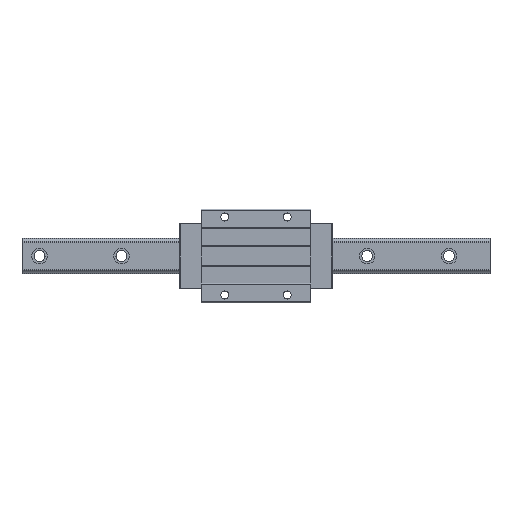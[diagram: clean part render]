
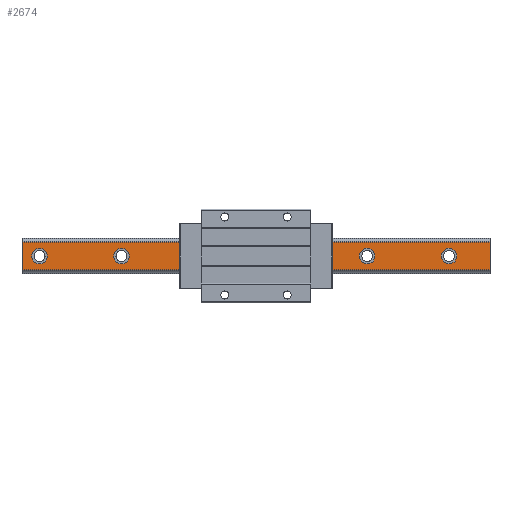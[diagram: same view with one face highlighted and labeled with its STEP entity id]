
A CAD part, top view. The second image highlights one B-rep face of the part: STEP entity #2674.
In plain terms, the highlighted planar face has unit normal (0, 0, 1).
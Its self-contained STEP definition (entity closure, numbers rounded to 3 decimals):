
#2 = EDGE_CURVE ( 'NONE', #453, #6997, #2956, .T. ) ;
#46 = CARTESIAN_POINT ( 'NONE',  ( -182.5, 0., 32. ) ) ;
#96 = DIRECTION ( 'NONE',  ( 0., -1., 0. ) ) ;
#99 = AXIS2_PLACEMENT_3D ( 'NONE', #2702, #5079, #7320 ) ;
#159 = VECTOR ( 'NONE', #955, 1000. ) ;
#166 = VERTEX_POINT ( 'NONE', #5169 ) ;
#240 = ORIENTED_EDGE ( 'NONE', *, *, #995, .F. ) ;
#313 = LINE ( 'NONE', #1438, #3094 ) ;
#322 = DIRECTION ( 'NONE',  ( -1., 0., 0. ) ) ;
#453 = VERTEX_POINT ( 'NONE', #46 ) ;
#460 = VERTEX_POINT ( 'NONE', #685 ) ;
#522 = VERTEX_POINT ( 'NONE', #4026 ) ;
#553 = DIRECTION ( 'NONE',  ( 0., 1., 0. ) ) ;
#618 = DIRECTION ( 'NONE',  ( 1., 0., 0. ) ) ;
#649 = FACE_BOUND ( 'NONE', #3521, .T. ) ;
#683 = DIRECTION ( 'NONE',  ( 0., 0., -1. ) ) ;
#685 = CARTESIAN_POINT ( 'NONE',  ( 257.5, 0., 32. ) ) ;
#688 = DIRECTION ( 'NONE',  ( 1., 0., 0. ) ) ;
#706 = EDGE_LOOP ( 'NONE', ( #4508, #240 ) ) ;
#714 = VERTEX_POINT ( 'NONE', #3998 ) ;
#729 = CIRCLE ( 'NONE', #1331, 10. ) ;
#761 = DIRECTION ( 'NONE',  ( 0., 0., 1. ) ) ;
#851 = CARTESIAN_POINT ( 'NONE',  ( -162.5, 0., 32. ) ) ;
#917 = CARTESIAN_POINT ( 'NONE',  ( 37.5, 0., 32. ) ) ;
#938 = EDGE_CURVE ( 'NONE', #3928, #714, #313, .T. ) ;
#955 = DIRECTION ( 'NONE',  ( 0., -1., 0. ) ) ;
#980 = ORIENTED_EDGE ( 'NONE', *, *, #1944, .F. ) ;
#995 = EDGE_CURVE ( 'NONE', #166, #1983, #5631, .T. ) ;
#1119 = FACE_OUTER_BOUND ( 'NONE', #1624, .T. ) ;
#1153 = FACE_BOUND ( 'NONE', #706, .T. ) ;
#1192 = DIRECTION ( 'NONE',  ( 0., 0., 1. ) ) ;
#1222 = AXIS2_PLACEMENT_3D ( 'NONE', #6339, #5824, #688 ) ;
#1244 = LINE ( 'NONE', #5810, #3497 ) ;
#1331 = AXIS2_PLACEMENT_3D ( 'NONE', #5845, #4723, #3688 ) ;
#1375 = DIRECTION ( 'NONE',  ( 1., 0., 0. ) ) ;
#1424 = CARTESIAN_POINT ( 'NONE',  ( -267.5, 0., 32. ) ) ;
#1434 = CARTESIAN_POINT ( 'NONE',  ( -300., -17.738, 32. ) ) ;
#1438 = CARTESIAN_POINT ( 'NONE',  ( 300., 17.738, 32. ) ) ;
#1613 = DIRECTION ( 'NONE',  ( 0., 0., 1. ) ) ;
#1624 = EDGE_LOOP ( 'NONE', ( #6877, #980, #3922, #5908 ) ) ;
#1795 = CARTESIAN_POINT ( 'NONE',  ( 300., 17.738, 32. ) ) ;
#1813 = DIRECTION ( 'NONE',  ( 1., 0., 0. ) ) ;
#1844 = DIRECTION ( 'NONE',  ( 0., 0., 1. ) ) ;
#1857 = CARTESIAN_POINT ( 'NONE',  ( 237.5, 0., 32. ) ) ;
#1888 = EDGE_CURVE ( 'NONE', #6997, #453, #3887, .T. ) ;
#1931 = AXIS2_PLACEMENT_3D ( 'NONE', #2987, #761, #5288 ) ;
#1944 = EDGE_CURVE ( 'NONE', #4213, #4793, #6534, .T. ) ;
#1983 = VERTEX_POINT ( 'NONE', #3011 ) ;
#2035 = VERTEX_POINT ( 'NONE', #7207 ) ;
#2038 = ORIENTED_EDGE ( 'NONE', *, *, #1888, .F. ) ;
#2239 = EDGE_CURVE ( 'NONE', #460, #6825, #4146, .T. ) ;
#2262 = EDGE_CURVE ( 'NONE', #4875, #522, #5659, .T. ) ;
#2337 = CARTESIAN_POINT ( 'NONE',  ( -172.5, 0., 32. ) ) ;
#2674 = ADVANCED_FACE ( 'NONE', ( #649, #6869, #1153, #5749, #5673, #5112, #1119 ), #2921, .F. ) ;
#2702 = CARTESIAN_POINT ( 'NONE',  ( -277.5, 0., 32. ) ) ;
#2755 = CIRCLE ( 'NONE', #6956, 10. ) ;
#2792 = CARTESIAN_POINT ( 'NONE',  ( -172.5, 0., 32. ) ) ;
#2835 = EDGE_LOOP ( 'NONE', ( #3548, #5915 ) ) ;
#2921 = PLANE ( 'NONE',  #6000 ) ;
#2956 = CIRCLE ( 'NONE', #7155, 10. ) ;
#2987 = CARTESIAN_POINT ( 'NONE',  ( 247.5, 0., 32. ) ) ;
#3011 = CARTESIAN_POINT ( 'NONE',  ( 47.5, 0., 32. ) ) ;
#3043 = DIRECTION ( 'NONE',  ( 0., 0., 1. ) ) ;
#3055 = VERTEX_POINT ( 'NONE', #3437 ) ;
#3094 = VECTOR ( 'NONE', #4397, 1000. ) ;
#3121 = ORIENTED_EDGE ( 'NONE', *, *, #2, .F. ) ;
#3359 = CARTESIAN_POINT ( 'NONE',  ( 300., -17.738, 32. ) ) ;
#3395 = AXIS2_PLACEMENT_3D ( 'NONE', #7164, #7096, #1375 ) ;
#3437 = CARTESIAN_POINT ( 'NONE',  ( -77.5, 0., 32. ) ) ;
#3442 = EDGE_CURVE ( 'NONE', #3055, #7383, #5036, .T. ) ;
#3455 = CARTESIAN_POINT ( 'NONE',  ( -300., -17.738, 32. ) ) ;
#3497 = VECTOR ( 'NONE', #96, 1000. ) ;
#3514 = CARTESIAN_POINT ( 'NONE',  ( 300., -17.738, 32. ) ) ;
#3521 = EDGE_LOOP ( 'NONE', ( #6387, #5923 ) ) ;
#3548 = ORIENTED_EDGE ( 'NONE', *, *, #4122, .F. ) ;
#3551 = AXIS2_PLACEMENT_3D ( 'NONE', #5948, #4677, #4109 ) ;
#3636 = CARTESIAN_POINT ( 'NONE',  ( 37.5, 0., 32. ) ) ;
#3679 = CARTESIAN_POINT ( 'NONE',  ( 300., -17.738, 32. ) ) ;
#3688 = DIRECTION ( 'NONE',  ( 1., 0., 0. ) ) ;
#3693 = AXIS2_PLACEMENT_3D ( 'NONE', #917, #4357, #6561 ) ;
#3799 = EDGE_CURVE ( 'NONE', #6280, #2035, #6271, .T. ) ;
#3887 = CIRCLE ( 'NONE', #4850, 10. ) ;
#3922 = ORIENTED_EDGE ( 'NONE', *, *, #6478, .F. ) ;
#3928 = VERTEX_POINT ( 'NONE', #1795 ) ;
#3963 = EDGE_LOOP ( 'NONE', ( #5899, #5964 ) ) ;
#3998 = CARTESIAN_POINT ( 'NONE',  ( -300., 17.738, 32. ) ) ;
#4021 = DIRECTION ( 'NONE',  ( 1., 0., 0. ) ) ;
#4026 = CARTESIAN_POINT ( 'NONE',  ( 152.5, 0., 32. ) ) ;
#4068 = CARTESIAN_POINT ( 'NONE',  ( -67.5, 0., 32. ) ) ;
#4109 = DIRECTION ( 'NONE',  ( 1., 0., 0. ) ) ;
#4122 = EDGE_CURVE ( 'NONE', #522, #4875, #729, .T. ) ;
#4138 = CARTESIAN_POINT ( 'NONE',  ( 132.5, 0., 32. ) ) ;
#4146 = CIRCLE ( 'NONE', #7191, 10. ) ;
#4213 = VERTEX_POINT ( 'NONE', #3359 ) ;
#4357 = DIRECTION ( 'NONE',  ( 0., 0., 1. ) ) ;
#4397 = DIRECTION ( 'NONE',  ( -1., 0., 0. ) ) ;
#4417 = CIRCLE ( 'NONE', #99, 10. ) ;
#4464 = CARTESIAN_POINT ( 'NONE',  ( -57.5, 0., 32. ) ) ;
#4467 = EDGE_CURVE ( 'NONE', #7383, #3055, #6550, .T. ) ;
#4508 = ORIENTED_EDGE ( 'NONE', *, *, #5343, .F. ) ;
#4677 = DIRECTION ( 'NONE',  ( 0., 0., 1. ) ) ;
#4723 = DIRECTION ( 'NONE',  ( 0., 0., 1. ) ) ;
#4793 = VERTEX_POINT ( 'NONE', #3455 ) ;
#4850 = AXIS2_PLACEMENT_3D ( 'NONE', #2792, #1613, #5092 ) ;
#4875 = VERTEX_POINT ( 'NONE', #4138 ) ;
#5036 = CIRCLE ( 'NONE', #6464, 10. ) ;
#5079 = DIRECTION ( 'NONE',  ( 0., 0., 1. ) ) ;
#5092 = DIRECTION ( 'NONE',  ( 1., 0., 0. ) ) ;
#5112 = FACE_BOUND ( 'NONE', #6362, .T. ) ;
#5169 = CARTESIAN_POINT ( 'NONE',  ( 27.5, 0., 32. ) ) ;
#5214 = EDGE_CURVE ( 'NONE', #2035, #6280, #4417, .T. ) ;
#5272 = DIRECTION ( 'NONE',  ( 1., 0., 0. ) ) ;
#5288 = DIRECTION ( 'NONE',  ( 1., 0., 0. ) ) ;
#5312 = DIRECTION ( 'NONE',  ( 0., 0., 1. ) ) ;
#5343 = EDGE_CURVE ( 'NONE', #1983, #166, #2755, .T. ) ;
#5411 = CIRCLE ( 'NONE', #1931, 10. ) ;
#5601 = EDGE_CURVE ( 'NONE', #714, #4793, #7093, .T. ) ;
#5631 = CIRCLE ( 'NONE', #3693, 10. ) ;
#5659 = CIRCLE ( 'NONE', #1222, 10. ) ;
#5673 = FACE_BOUND ( 'NONE', #7275, .T. ) ;
#5749 = FACE_BOUND ( 'NONE', #3963, .T. ) ;
#5810 = CARTESIAN_POINT ( 'NONE',  ( 300., -17.738, 32. ) ) ;
#5824 = DIRECTION ( 'NONE',  ( 0., 0., 1. ) ) ;
#5845 = CARTESIAN_POINT ( 'NONE',  ( 142.5, 0., 32. ) ) ;
#5899 = ORIENTED_EDGE ( 'NONE', *, *, #4467, .F. ) ;
#5908 = ORIENTED_EDGE ( 'NONE', *, *, #938, .T. ) ;
#5915 = ORIENTED_EDGE ( 'NONE', *, *, #2262, .F. ) ;
#5923 = ORIENTED_EDGE ( 'NONE', *, *, #7330, .F. ) ;
#5948 = CARTESIAN_POINT ( 'NONE',  ( -67.5, 0., 32. ) ) ;
#5964 = ORIENTED_EDGE ( 'NONE', *, *, #3442, .F. ) ;
#6000 = AXIS2_PLACEMENT_3D ( 'NONE', #3514, #683, #553 ) ;
#6271 = CIRCLE ( 'NONE', #3395, 10. ) ;
#6280 = VERTEX_POINT ( 'NONE', #1424 ) ;
#6303 = CARTESIAN_POINT ( 'NONE',  ( 247.5, 0., 32. ) ) ;
#6339 = CARTESIAN_POINT ( 'NONE',  ( 142.5, 0., 32. ) ) ;
#6362 = EDGE_LOOP ( 'NONE', ( #6936, #7373 ) ) ;
#6387 = ORIENTED_EDGE ( 'NONE', *, *, #2239, .F. ) ;
#6403 = VECTOR ( 'NONE', #322, 1000. ) ;
#6464 = AXIS2_PLACEMENT_3D ( 'NONE', #4068, #5312, #5272 ) ;
#6478 = EDGE_CURVE ( 'NONE', #3928, #4213, #1244, .T. ) ;
#6534 = LINE ( 'NONE', #3679, #6403 ) ;
#6550 = CIRCLE ( 'NONE', #3551, 10. ) ;
#6561 = DIRECTION ( 'NONE',  ( 1., 0., 0. ) ) ;
#6825 = VERTEX_POINT ( 'NONE', #1857 ) ;
#6869 = FACE_BOUND ( 'NONE', #2835, .T. ) ;
#6877 = ORIENTED_EDGE ( 'NONE', *, *, #5601, .T. ) ;
#6936 = ORIENTED_EDGE ( 'NONE', *, *, #3799, .F. ) ;
#6956 = AXIS2_PLACEMENT_3D ( 'NONE', #3636, #1844, #618 ) ;
#6997 = VERTEX_POINT ( 'NONE', #851 ) ;
#7093 = LINE ( 'NONE', #1434, #159 ) ;
#7096 = DIRECTION ( 'NONE',  ( 0., 0., 1. ) ) ;
#7155 = AXIS2_PLACEMENT_3D ( 'NONE', #2337, #3043, #4021 ) ;
#7164 = CARTESIAN_POINT ( 'NONE',  ( -277.5, 0., 32. ) ) ;
#7191 = AXIS2_PLACEMENT_3D ( 'NONE', #6303, #1192, #1813 ) ;
#7207 = CARTESIAN_POINT ( 'NONE',  ( -287.5, 0., 32. ) ) ;
#7275 = EDGE_LOOP ( 'NONE', ( #2038, #3121 ) ) ;
#7320 = DIRECTION ( 'NONE',  ( 1., 0., 0. ) ) ;
#7330 = EDGE_CURVE ( 'NONE', #6825, #460, #5411, .T. ) ;
#7373 = ORIENTED_EDGE ( 'NONE', *, *, #5214, .F. ) ;
#7383 = VERTEX_POINT ( 'NONE', #4464 ) ;
